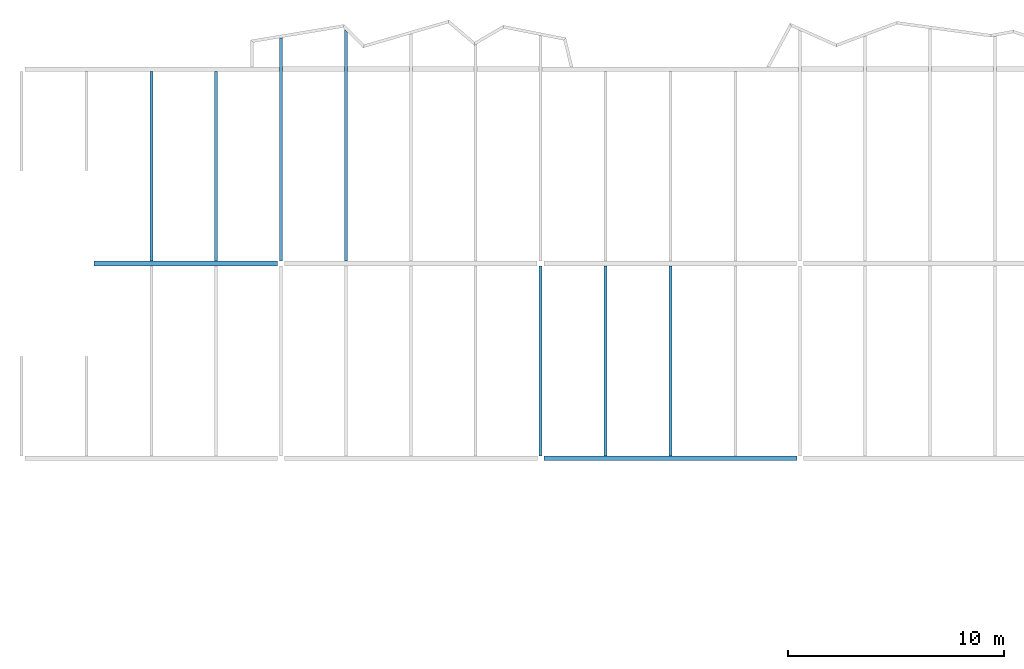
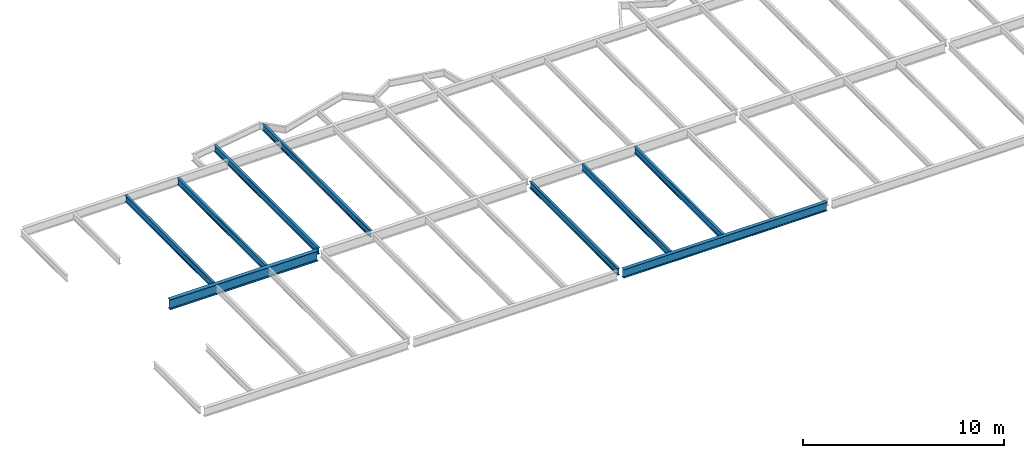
# One storey, part 2 of 21: 9 beams.
"""IFC2X3 building model written with IfcOpenShell, lengths in millimetres."""

from ifc_helpers import new_model, si_unit, origin, place, context, project, spatial, faceted_brep, material, element, save


model = new_model("IFC2X3")

# Units and contexts
context_of_model = context(None, 3, precision=1e-05, world=origin())
ifc_project = project(units=[si_unit("LENGTHUNIT", "METRE", prefix="MILLI")], contexts=[context_of_model])

# Building, storey
building = spatial("IfcBuilding", under=ifc_project, Name="Building", CompositionType="ELEMENT")
storey = spatial("IfcBuildingStorey", under=building, Name="FL3-FRM", CompositionType="ELEMENT")

# Beams
ifc_material_1 = material(Name="A992")
beam_1_placement = place(None, origin())
element("IfcBeam", 1, at=beam_1_placement, inside=storey, material=ifc_material_1, Name="B417", context=context_of_model, shape_type="Brep", body=[
    faceted_brep([(-51070.0, 35895.5, 8474.0), (-50930.0, 35895.5, 8474.0), (-50930.0, 27114.5, 8474.0), (-51070.0, 27114.5, 8474.0), (-50930.0, 35895.5, 8482.8), (-50930.0, 27114.5, 8482.8), (-50986.6, 35895.5, 8482.8), (-50986.6, 27114.5, 8482.8), (-50989.2, 35895.5, 8483.15), (-50989.2, 27114.5, 8483.15), (-50991.7, 35895.5, 8484.17), (-50991.7, 27114.5, 8484.17), (-50993.8, 35895.5, 8485.79), (-50993.8, 27114.5, 8485.79), (-50995.4, 35895.5, 8487.9), (-50995.4, 27114.5, 8487.9), (-50996.5, 35895.5, 8490.36), (-50996.5, 27114.5, 8490.36), (-50996.8, 35895.5, 8493.0), (-50996.8, 27114.5, 8493.0), (-50996.8, 35895.5, 8854.0), (-50996.8, 27114.5, 8854.0), (-50996.5, 35895.5, 8856.64), (-50996.5, 27114.5, 8856.64), (-50995.4, 35895.5, 8859.1), (-50995.4, 27114.5, 8859.1), (-50993.8, 35895.5, 8861.21), (-50993.8, 27114.5, 8861.21), (-50991.7, 35895.5, 8862.83), (-50991.7, 27114.5, 8862.83), (-50989.2, 35895.5, 8863.85), (-50989.2, 27114.5, 8863.85), (-50986.6, 35895.5, 8864.2), (-50986.6, 27114.5, 8864.2), (-50930.0, 35895.5, 8864.2), (-50930.0, 27114.5, 8864.2), (-50930.0, 35895.5, 8873.0), (-50930.0, 27114.5, 8873.0), (-51070.0, 35895.5, 8873.0), (-51070.0, 27114.5, 8873.0), (-51070.0, 35895.5, 8864.2), (-51070.0, 27114.5, 8864.2), (-51013.4, 35895.5, 8864.2), (-51013.4, 27114.5, 8864.2), (-51010.8, 35895.5, 8863.85), (-51010.8, 27114.5, 8863.85), (-51008.3, 35895.5, 8862.83), (-51008.3, 27114.5, 8862.83), (-51006.2, 35895.5, 8861.21), (-51006.2, 27114.5, 8861.21), (-51004.6, 35895.5, 8859.1), (-51004.6, 27114.5, 8859.1), (-51003.5, 35895.5, 8856.64), (-51003.5, 27114.5, 8856.64), (-51003.2, 35895.5, 8854.0), (-51003.2, 27114.5, 8854.0), (-51003.2, 35895.5, 8493.0), (-51003.2, 27114.5, 8493.0), (-51003.5, 35895.5, 8490.36), (-51003.5, 27114.5, 8490.36), (-51004.6, 35895.5, 8487.9), (-51004.6, 27114.5, 8487.9), (-51006.2, 35895.5, 8485.79), (-51006.2, 27114.5, 8485.79), (-51008.3, 35895.5, 8484.17), (-51008.3, 27114.5, 8484.17), (-51010.8, 35895.5, 8483.15), (-51010.8, 27114.5, 8483.15), (-51013.4, 35895.5, 8482.8), (-51013.4, 27114.5, 8482.8), (-51070.0, 35895.5, 8482.8), (-51070.0, 27114.5, 8482.8)], [[[0, 1, 2, 3]], [[1, 4, 5, 2]], [[4, 6, 7, 5]], [[6, 8, 9, 7]], [[8, 10, 11, 9]], [[10, 12, 13, 11]], [[12, 14, 15, 13]], [[14, 16, 17, 15]], [[16, 18, 19, 17]], [[18, 20, 21, 19]], [[20, 22, 23, 21]], [[22, 24, 25, 23]], [[24, 26, 27, 25]], [[26, 28, 29, 27]], [[28, 30, 31, 29]], [[30, 32, 33, 31]], [[32, 34, 35, 33]], [[34, 36, 37, 35]], [[36, 38, 39, 37]], [[38, 40, 41, 39]], [[40, 42, 43, 41]], [[42, 44, 45, 43]], [[44, 46, 47, 45]], [[46, 48, 49, 47]], [[48, 50, 51, 49]], [[50, 52, 53, 51]], [[52, 54, 55, 53]], [[54, 56, 57, 55]], [[56, 58, 59, 57]], [[58, 60, 61, 59]], [[60, 62, 63, 61]], [[62, 64, 65, 63]], [[64, 66, 67, 65]], [[66, 68, 69, 67]], [[68, 70, 71, 69]], [[70, 0, 3, 71]], [[0, 70, 68, 66, 64, 62, 60, 58, 56, 54, 52, 50, 48, 46, 44, 42, 40, 38, 36, 34, 32, 30, 28, 26, 24, 22, 20, 18, 16, 14, 12, 10, 8, 6, 4, 1]], [[3, 2, 5, 7, 9, 11, 13, 15, 17, 19, 21, 23, 25, 27, 29, 31, 33, 35, 37, 39, 41, 43, 45, 47, 49, 51, 53, 55, 57, 59, 61, 63, 65, 67, 69, 71]]]),
])
ifc_material_2 = material(Name="A992")
beam_2_placement = place(None, origin())
element("IfcBeam", 2, at=beam_2_placement, inside=storey, material=ifc_material_2, Name="B418", context=context_of_model, shape_type="Brep", body=[
    faceted_brep([(-54070.0, 35895.5, 8474.0), (-53930.0, 35895.5, 8474.0), (-53930.0, 27114.5, 8474.0), (-54070.0, 27114.5, 8474.0), (-53930.0, 35895.5, 8482.8), (-53930.0, 27114.5, 8482.8), (-53986.6, 35895.5, 8482.8), (-53986.6, 27114.5, 8482.8), (-53989.2, 35895.5, 8483.15), (-53989.2, 27114.5, 8483.15), (-53991.7, 35895.5, 8484.17), (-53991.7, 27114.5, 8484.17), (-53993.8, 35895.5, 8485.79), (-53993.8, 27114.5, 8485.79), (-53995.4, 35895.5, 8487.9), (-53995.4, 27114.5, 8487.9), (-53996.5, 35895.5, 8490.36), (-53996.5, 27114.5, 8490.36), (-53996.8, 35895.5, 8493.0), (-53996.8, 27114.5, 8493.0), (-53996.8, 35895.5, 8854.0), (-53996.8, 27114.5, 8854.0), (-53996.5, 35895.5, 8856.64), (-53996.5, 27114.5, 8856.64), (-53995.4, 35895.5, 8859.1), (-53995.4, 27114.5, 8859.1), (-53993.8, 35895.5, 8861.21), (-53993.8, 27114.5, 8861.21), (-53991.7, 35895.5, 8862.83), (-53991.7, 27114.5, 8862.83), (-53989.2, 35895.5, 8863.85), (-53989.2, 27114.5, 8863.85), (-53986.6, 35895.5, 8864.2), (-53986.6, 27114.5, 8864.2), (-53930.0, 35895.5, 8864.2), (-53930.0, 27114.5, 8864.2), (-53930.0, 35895.5, 8873.0), (-53930.0, 27114.5, 8873.0), (-54070.0, 35895.5, 8873.0), (-54070.0, 27114.5, 8873.0), (-54070.0, 35895.5, 8864.2), (-54070.0, 27114.5, 8864.2), (-54013.4, 35895.5, 8864.2), (-54013.4, 27114.5, 8864.2), (-54010.8, 35895.5, 8863.85), (-54010.8, 27114.5, 8863.85), (-54008.3, 35895.5, 8862.83), (-54008.3, 27114.5, 8862.83), (-54006.2, 35895.5, 8861.21), (-54006.2, 27114.5, 8861.21), (-54004.6, 35895.5, 8859.1), (-54004.6, 27114.5, 8859.1), (-54003.5, 35895.5, 8856.64), (-54003.5, 27114.5, 8856.64), (-54003.2, 35895.5, 8854.0), (-54003.2, 27114.5, 8854.0), (-54003.2, 35895.5, 8493.0), (-54003.2, 27114.5, 8493.0), (-54003.5, 35895.5, 8490.36), (-54003.5, 27114.5, 8490.36), (-54004.6, 35895.5, 8487.9), (-54004.6, 27114.5, 8487.9), (-54006.2, 35895.5, 8485.79), (-54006.2, 27114.5, 8485.79), (-54008.3, 35895.5, 8484.17), (-54008.3, 27114.5, 8484.17), (-54010.8, 35895.5, 8483.15), (-54010.8, 27114.5, 8483.15), (-54013.4, 35895.5, 8482.8), (-54013.4, 27114.5, 8482.8), (-54070.0, 35895.5, 8482.8), (-54070.0, 27114.5, 8482.8)], [[[0, 1, 2, 3]], [[1, 4, 5, 2]], [[4, 6, 7, 5]], [[6, 8, 9, 7]], [[8, 10, 11, 9]], [[10, 12, 13, 11]], [[12, 14, 15, 13]], [[14, 16, 17, 15]], [[16, 18, 19, 17]], [[18, 20, 21, 19]], [[20, 22, 23, 21]], [[22, 24, 25, 23]], [[24, 26, 27, 25]], [[26, 28, 29, 27]], [[28, 30, 31, 29]], [[30, 32, 33, 31]], [[32, 34, 35, 33]], [[34, 36, 37, 35]], [[36, 38, 39, 37]], [[38, 40, 41, 39]], [[40, 42, 43, 41]], [[42, 44, 45, 43]], [[44, 46, 47, 45]], [[46, 48, 49, 47]], [[48, 50, 51, 49]], [[50, 52, 53, 51]], [[52, 54, 55, 53]], [[54, 56, 57, 55]], [[56, 58, 59, 57]], [[58, 60, 61, 59]], [[60, 62, 63, 61]], [[62, 64, 65, 63]], [[64, 66, 67, 65]], [[66, 68, 69, 67]], [[68, 70, 71, 69]], [[70, 0, 3, 71]], [[0, 70, 68, 66, 64, 62, 60, 58, 56, 54, 52, 50, 48, 46, 44, 42, 40, 38, 36, 34, 32, 30, 28, 26, 24, 22, 20, 18, 16, 14, 12, 10, 8, 6, 4, 1]], [[3, 2, 5, 7, 9, 11, 13, 15, 17, 19, 21, 23, 25, 27, 29, 31, 33, 35, 37, 39, 41, 43, 45, 47, 49, 51, 53, 55, 57, 59, 61, 63, 65, 67, 69, 71]]]),
])
ifc_material_3 = material(Name="A992")
beam_3_placement = place(None, origin())
element("IfcBeam", 3, at=beam_3_placement, inside=storey, material=ifc_material_3, Name="Column466", context=context_of_model, shape_type="Brep", body=[
    faceted_brep([(-35846.0, 17895.5, 8345.0), (-35846.0, 18104.5, 8345.0), (-24154.0, 18104.5, 8345.0), (-24154.0, 17895.5, 8345.0), (-35846.0, 18104.5, 8358.3), (-24154.0, 18104.5, 8358.3), (-35846.0, 18017.4, 8358.3), (-24154.0, 18017.4, 8358.3), (-35846.0, 18014.2, 8358.73), (-24154.0, 18014.2, 8358.73), (-35846.0, 18011.1, 8360.0), (-24154.0, 18011.1, 8360.0), (-35846.0, 18008.5, 8362.02), (-24154.0, 18008.5, 8362.02), (-35846.0, 18006.5, 8364.65), (-24154.0, 18006.5, 8364.65), (-35846.0, 18005.2, 8367.71), (-24154.0, 18005.2, 8367.71), (-35846.0, 18004.8, 8371.0), (-24154.0, 18004.8, 8371.0), (-35846.0, 18004.8, 8847.0), (-24154.0, 18004.8, 8847.0), (-35846.0, 18005.2, 8850.29), (-24154.0, 18005.2, 8850.29), (-35846.0, 18006.5, 8853.35), (-24154.0, 18006.5, 8853.35), (-35846.0, 18008.5, 8855.98), (-24154.0, 18008.5, 8855.98), (-35846.0, 18011.1, 8858.0), (-24154.0, 18011.1, 8858.0), (-35846.0, 18014.2, 8859.27), (-24154.0, 18014.2, 8859.27), (-35846.0, 18017.4, 8859.7), (-24154.0, 18017.4, 8859.7), (-35846.0, 18104.5, 8859.7), (-24154.0, 18104.5, 8859.7), (-35846.0, 18104.5, 8873.0), (-24154.0, 18104.5, 8873.0), (-35846.0, 17895.5, 8873.0), (-24154.0, 17895.5, 8873.0), (-35846.0, 17895.5, 8859.7), (-24154.0, 17895.5, 8859.7), (-35846.0, 17982.6, 8859.7), (-24154.0, 17982.6, 8859.7), (-35846.0, 17985.8, 8859.27), (-24154.0, 17985.8, 8859.27), (-35846.0, 17988.9, 8858.0), (-24154.0, 17988.9, 8858.0), (-35846.0, 17991.5, 8855.98), (-24154.0, 17991.5, 8855.98), (-35846.0, 17993.5, 8853.35), (-24154.0, 17993.5, 8853.35), (-35846.0, 17994.8, 8850.29), (-24154.0, 17994.8, 8850.29), (-35846.0, 17995.3, 8847.0), (-24154.0, 17995.3, 8847.0), (-35846.0, 17995.3, 8371.0), (-24154.0, 17995.3, 8371.0), (-35846.0, 17994.8, 8367.71), (-24154.0, 17994.8, 8367.71), (-35846.0, 17993.5, 8364.65), (-24154.0, 17993.5, 8364.65), (-35846.0, 17991.5, 8362.02), (-24154.0, 17991.5, 8362.02), (-35846.0, 17988.9, 8360.0), (-24154.0, 17988.9, 8360.0), (-35846.0, 17985.8, 8358.73), (-24154.0, 17985.8, 8358.73), (-35846.0, 17982.6, 8358.3), (-24154.0, 17982.6, 8358.3), (-35846.0, 17895.5, 8358.3), (-24154.0, 17895.5, 8358.3)], [[[0, 1, 2, 3]], [[1, 4, 5, 2]], [[4, 6, 7, 5]], [[6, 8, 9, 7]], [[8, 10, 11, 9]], [[10, 12, 13, 11]], [[12, 14, 15, 13]], [[14, 16, 17, 15]], [[16, 18, 19, 17]], [[18, 20, 21, 19]], [[20, 22, 23, 21]], [[22, 24, 25, 23]], [[24, 26, 27, 25]], [[26, 28, 29, 27]], [[28, 30, 31, 29]], [[30, 32, 33, 31]], [[32, 34, 35, 33]], [[34, 36, 37, 35]], [[36, 38, 39, 37]], [[38, 40, 41, 39]], [[40, 42, 43, 41]], [[42, 44, 45, 43]], [[44, 46, 47, 45]], [[46, 48, 49, 47]], [[48, 50, 51, 49]], [[50, 52, 53, 51]], [[52, 54, 55, 53]], [[54, 56, 57, 55]], [[56, 58, 59, 57]], [[58, 60, 61, 59]], [[60, 62, 63, 61]], [[62, 64, 65, 63]], [[64, 66, 67, 65]], [[66, 68, 69, 67]], [[68, 70, 71, 69]], [[70, 0, 3, 71]], [[0, 70, 68, 66, 64, 62, 60, 58, 56, 54, 52, 50, 48, 46, 44, 42, 40, 38, 36, 34, 32, 30, 28, 26, 24, 22, 20, 18, 16, 14, 12, 10, 8, 6, 4, 1]], [[3, 2, 5, 7, 9, 11, 13, 15, 17, 19, 21, 23, 25, 27, 29, 31, 33, 35, 37, 39, 41, 43, 45, 47, 49, 51, 53, 55, 57, 59, 61, 63, 65, 67, 69, 71]]]),
])
ifc_material_4 = material(Name="A992")
beam_4_placement = place(None, origin())
element("IfcBeam", 4, at=beam_4_placement, inside=storey, material=ifc_material_4, Name="B441", context=context_of_model, shape_type="Brep", body=[
    faceted_brep([(-35930.0, 18104.5, 8474.0), (-36070.0, 18104.5, 8474.0), (-36070.0, 26885.5, 8474.0), (-35930.0, 26885.5, 8474.0), (-36070.0, 18104.5, 8482.8), (-36070.0, 26885.5, 8482.8), (-36013.4, 18104.5, 8482.8), (-36013.4, 26885.5, 8482.8), (-36010.8, 18104.5, 8483.15), (-36010.8, 26885.5, 8483.15), (-36008.3, 18104.5, 8484.17), (-36008.3, 26885.5, 8484.17), (-36006.2, 18104.5, 8485.79), (-36006.2, 26885.5, 8485.79), (-36004.6, 18104.5, 8487.9), (-36004.6, 26885.5, 8487.9), (-36003.5, 18104.5, 8490.36), (-36003.5, 26885.5, 8490.36), (-36003.2, 18104.5, 8493.0), (-36003.2, 26885.5, 8493.0), (-36003.2, 18104.5, 8854.0), (-36003.2, 26885.5, 8854.0), (-36003.5, 18104.5, 8856.64), (-36003.5, 26885.5, 8856.64), (-36004.6, 18104.5, 8859.1), (-36004.6, 26885.5, 8859.1), (-36006.2, 18104.5, 8861.21), (-36006.2, 26885.5, 8861.21), (-36008.3, 18104.5, 8862.83), (-36008.3, 26885.5, 8862.83), (-36010.8, 18104.5, 8863.85), (-36010.8, 26885.5, 8863.85), (-36013.4, 18104.5, 8864.2), (-36013.4, 26885.5, 8864.2), (-36070.0, 18104.5, 8864.2), (-36070.0, 26885.5, 8864.2), (-36070.0, 18104.5, 8873.0), (-36070.0, 26885.5, 8873.0), (-35930.0, 18104.5, 8873.0), (-35930.0, 26885.5, 8873.0), (-35930.0, 18104.5, 8864.2), (-35930.0, 26885.5, 8864.2), (-35986.6, 18104.5, 8864.2), (-35986.6, 26885.5, 8864.2), (-35989.2, 18104.5, 8863.85), (-35989.2, 26885.5, 8863.85), (-35991.7, 18104.5, 8862.83), (-35991.7, 26885.5, 8862.83), (-35993.8, 18104.5, 8861.21), (-35993.8, 26885.5, 8861.21), (-35995.4, 18104.5, 8859.1), (-35995.4, 26885.5, 8859.1), (-35996.5, 18104.5, 8856.64), (-35996.5, 26885.5, 8856.64), (-35996.8, 18104.5, 8854.0), (-35996.8, 26885.5, 8854.0), (-35996.8, 18104.5, 8493.0), (-35996.8, 26885.5, 8493.0), (-35996.5, 18104.5, 8490.36), (-35996.5, 26885.5, 8490.36), (-35995.4, 18104.5, 8487.9), (-35995.4, 26885.5, 8487.9), (-35993.8, 18104.5, 8485.79), (-35993.8, 26885.5, 8485.79), (-35991.7, 18104.5, 8484.17), (-35991.7, 26885.5, 8484.17), (-35989.2, 18104.5, 8483.15), (-35989.2, 26885.5, 8483.15), (-35986.6, 18104.5, 8482.8), (-35986.6, 26885.5, 8482.8), (-35930.0, 18104.5, 8482.8), (-35930.0, 26885.5, 8482.8)], [[[0, 1, 2, 3]], [[1, 4, 5, 2]], [[4, 6, 7, 5]], [[6, 8, 9, 7]], [[8, 10, 11, 9]], [[10, 12, 13, 11]], [[12, 14, 15, 13]], [[14, 16, 17, 15]], [[16, 18, 19, 17]], [[18, 20, 21, 19]], [[20, 22, 23, 21]], [[22, 24, 25, 23]], [[24, 26, 27, 25]], [[26, 28, 29, 27]], [[28, 30, 31, 29]], [[30, 32, 33, 31]], [[32, 34, 35, 33]], [[34, 36, 37, 35]], [[36, 38, 39, 37]], [[38, 40, 41, 39]], [[40, 42, 43, 41]], [[42, 44, 45, 43]], [[44, 46, 47, 45]], [[46, 48, 49, 47]], [[48, 50, 51, 49]], [[50, 52, 53, 51]], [[52, 54, 55, 53]], [[54, 56, 57, 55]], [[56, 58, 59, 57]], [[58, 60, 61, 59]], [[60, 62, 63, 61]], [[62, 64, 65, 63]], [[64, 66, 67, 65]], [[66, 68, 69, 67]], [[68, 70, 71, 69]], [[70, 0, 3, 71]], [[0, 70, 68, 66, 64, 62, 60, 58, 56, 54, 52, 50, 48, 46, 44, 42, 40, 38, 36, 34, 32, 30, 28, 26, 24, 22, 20, 18, 16, 14, 12, 10, 8, 6, 4, 1]], [[3, 2, 5, 7, 9, 11, 13, 15, 17, 19, 21, 23, 25, 27, 29, 31, 33, 35, 37, 39, 41, 43, 45, 47, 49, 51, 53, 55, 57, 59, 61, 63, 65, 67, 69, 71]]]),
])
ifc_material_5 = material(Name="A992")
beam_5_placement = place(None, origin())
element("IfcBeam", 5, at=beam_5_placement, inside=storey, material=ifc_material_5, Name="B442", context=context_of_model, shape_type="Brep", body=[
    faceted_brep([(-32930.0, 18104.5, 8474.0), (-33070.0, 18104.5, 8474.0), (-33070.0, 26885.5, 8474.0), (-32930.0, 26885.5, 8474.0), (-33070.0, 18104.5, 8482.8), (-33070.0, 26885.5, 8482.8), (-33013.4, 18104.5, 8482.8), (-33013.4, 26885.5, 8482.8), (-33010.8, 18104.5, 8483.15), (-33010.8, 26885.5, 8483.15), (-33008.3, 18104.5, 8484.17), (-33008.3, 26885.5, 8484.17), (-33006.2, 18104.5, 8485.79), (-33006.2, 26885.5, 8485.79), (-33004.6, 18104.5, 8487.9), (-33004.6, 26885.5, 8487.9), (-33003.5, 18104.5, 8490.36), (-33003.5, 26885.5, 8490.36), (-33003.2, 18104.5, 8493.0), (-33003.2, 26885.5, 8493.0), (-33003.2, 18104.5, 8854.0), (-33003.2, 26885.5, 8854.0), (-33003.5, 18104.5, 8856.64), (-33003.5, 26885.5, 8856.64), (-33004.6, 18104.5, 8859.1), (-33004.6, 26885.5, 8859.1), (-33006.2, 18104.5, 8861.21), (-33006.2, 26885.5, 8861.21), (-33008.3, 18104.5, 8862.83), (-33008.3, 26885.5, 8862.83), (-33010.8, 18104.5, 8863.85), (-33010.8, 26885.5, 8863.85), (-33013.4, 18104.5, 8864.2), (-33013.4, 26885.5, 8864.2), (-33070.0, 18104.5, 8864.2), (-33070.0, 26885.5, 8864.2), (-33070.0, 18104.5, 8873.0), (-33070.0, 26885.5, 8873.0), (-32930.0, 18104.5, 8873.0), (-32930.0, 26885.5, 8873.0), (-32930.0, 18104.5, 8864.2), (-32930.0, 26885.5, 8864.2), (-32986.6, 18104.5, 8864.2), (-32986.6, 26885.5, 8864.2), (-32989.2, 18104.5, 8863.85), (-32989.2, 26885.5, 8863.85), (-32991.7, 18104.5, 8862.83), (-32991.7, 26885.5, 8862.83), (-32993.8, 18104.5, 8861.21), (-32993.8, 26885.5, 8861.21), (-32995.4, 18104.5, 8859.1), (-32995.4, 26885.5, 8859.1), (-32996.5, 18104.5, 8856.64), (-32996.5, 26885.5, 8856.64), (-32996.8, 18104.5, 8854.0), (-32996.8, 26885.5, 8854.0), (-32996.8, 18104.5, 8493.0), (-32996.8, 26885.5, 8493.0), (-32996.5, 18104.5, 8490.36), (-32996.5, 26885.5, 8490.36), (-32995.4, 18104.5, 8487.9), (-32995.4, 26885.5, 8487.9), (-32993.8, 18104.5, 8485.79), (-32993.8, 26885.5, 8485.79), (-32991.7, 18104.5, 8484.17), (-32991.7, 26885.5, 8484.17), (-32989.2, 18104.5, 8483.15), (-32989.2, 26885.5, 8483.15), (-32986.6, 18104.5, 8482.8), (-32986.6, 26885.5, 8482.8), (-32930.0, 18104.5, 8482.8), (-32930.0, 26885.5, 8482.8)], [[[0, 1, 2, 3]], [[1, 4, 5, 2]], [[4, 6, 7, 5]], [[6, 8, 9, 7]], [[8, 10, 11, 9]], [[10, 12, 13, 11]], [[12, 14, 15, 13]], [[14, 16, 17, 15]], [[16, 18, 19, 17]], [[18, 20, 21, 19]], [[20, 22, 23, 21]], [[22, 24, 25, 23]], [[24, 26, 27, 25]], [[26, 28, 29, 27]], [[28, 30, 31, 29]], [[30, 32, 33, 31]], [[32, 34, 35, 33]], [[34, 36, 37, 35]], [[36, 38, 39, 37]], [[38, 40, 41, 39]], [[40, 42, 43, 41]], [[42, 44, 45, 43]], [[44, 46, 47, 45]], [[46, 48, 49, 47]], [[48, 50, 51, 49]], [[50, 52, 53, 51]], [[52, 54, 55, 53]], [[54, 56, 57, 55]], [[56, 58, 59, 57]], [[58, 60, 61, 59]], [[60, 62, 63, 61]], [[62, 64, 65, 63]], [[64, 66, 67, 65]], [[66, 68, 69, 67]], [[68, 70, 71, 69]], [[70, 0, 3, 71]], [[0, 70, 68, 66, 64, 62, 60, 58, 56, 54, 52, 50, 48, 46, 44, 42, 40, 38, 36, 34, 32, 30, 28, 26, 24, 22, 20, 18, 16, 14, 12, 10, 8, 6, 4, 1]], [[3, 2, 5, 7, 9, 11, 13, 15, 17, 19, 21, 23, 25, 27, 29, 31, 33, 35, 37, 39, 41, 43, 45, 47, 49, 51, 53, 55, 57, 59, 61, 63, 65, 67, 69, 71]]]),
])
ifc_material_6 = material(Name="A992")
beam_6_placement = place(None, origin())
element("IfcBeam", 6, at=beam_6_placement, inside=storey, material=ifc_material_6, Name="B443", context=context_of_model, shape_type="Brep", body=[
    faceted_brep([(-29930.0, 18104.5, 8474.0), (-30070.0, 18104.5, 8474.0), (-30070.0, 26885.5, 8474.0), (-29930.0, 26885.5, 8474.0), (-30070.0, 18104.5, 8482.8), (-30070.0, 26885.5, 8482.8), (-30013.4, 18104.5, 8482.8), (-30013.4, 26885.5, 8482.8), (-30010.8, 18104.5, 8483.15), (-30010.8, 26885.5, 8483.15), (-30008.3, 18104.5, 8484.17), (-30008.3, 26885.5, 8484.17), (-30006.2, 18104.5, 8485.79), (-30006.2, 26885.5, 8485.79), (-30004.6, 18104.5, 8487.9), (-30004.6, 26885.5, 8487.9), (-30003.5, 18104.5, 8490.36), (-30003.5, 26885.5, 8490.36), (-30003.2, 18104.5, 8493.0), (-30003.2, 26885.5, 8493.0), (-30003.2, 18104.5, 8854.0), (-30003.2, 26885.5, 8854.0), (-30003.5, 18104.5, 8856.64), (-30003.5, 26885.5, 8856.64), (-30004.6, 18104.5, 8859.1), (-30004.6, 26885.5, 8859.1), (-30006.2, 18104.5, 8861.21), (-30006.2, 26885.5, 8861.21), (-30008.3, 18104.5, 8862.83), (-30008.3, 26885.5, 8862.83), (-30010.8, 18104.5, 8863.85), (-30010.8, 26885.5, 8863.85), (-30013.4, 18104.5, 8864.2), (-30013.4, 26885.5, 8864.2), (-30070.0, 18104.5, 8864.2), (-30070.0, 26885.5, 8864.2), (-30070.0, 18104.5, 8873.0), (-30070.0, 26885.5, 8873.0), (-29930.0, 18104.5, 8873.0), (-29930.0, 26885.5, 8873.0), (-29930.0, 18104.5, 8864.2), (-29930.0, 26885.5, 8864.2), (-29986.6, 18104.5, 8864.2), (-29986.6, 26885.5, 8864.2), (-29989.2, 18104.5, 8863.85), (-29989.2, 26885.5, 8863.85), (-29991.7, 18104.5, 8862.83), (-29991.7, 26885.5, 8862.83), (-29993.8, 18104.5, 8861.21), (-29993.8, 26885.5, 8861.21), (-29995.4, 18104.5, 8859.1), (-29995.4, 26885.5, 8859.1), (-29996.5, 18104.5, 8856.64), (-29996.5, 26885.5, 8856.64), (-29996.8, 18104.5, 8854.0), (-29996.8, 26885.5, 8854.0), (-29996.8, 18104.5, 8493.0), (-29996.8, 26885.5, 8493.0), (-29996.5, 18104.5, 8490.36), (-29996.5, 26885.5, 8490.36), (-29995.4, 18104.5, 8487.9), (-29995.4, 26885.5, 8487.9), (-29993.8, 18104.5, 8485.79), (-29993.8, 26885.5, 8485.79), (-29991.7, 18104.5, 8484.17), (-29991.7, 26885.5, 8484.17), (-29989.2, 18104.5, 8483.15), (-29989.2, 26885.5, 8483.15), (-29986.6, 18104.5, 8482.8), (-29986.6, 26885.5, 8482.8), (-29930.0, 18104.5, 8482.8), (-29930.0, 26885.5, 8482.8)], [[[0, 1, 2, 3]], [[1, 4, 5, 2]], [[4, 6, 7, 5]], [[6, 8, 9, 7]], [[8, 10, 11, 9]], [[10, 12, 13, 11]], [[12, 14, 15, 13]], [[14, 16, 17, 15]], [[16, 18, 19, 17]], [[18, 20, 21, 19]], [[20, 22, 23, 21]], [[22, 24, 25, 23]], [[24, 26, 27, 25]], [[26, 28, 29, 27]], [[28, 30, 31, 29]], [[30, 32, 33, 31]], [[32, 34, 35, 33]], [[34, 36, 37, 35]], [[36, 38, 39, 37]], [[38, 40, 41, 39]], [[40, 42, 43, 41]], [[42, 44, 45, 43]], [[44, 46, 47, 45]], [[46, 48, 49, 47]], [[48, 50, 51, 49]], [[50, 52, 53, 51]], [[52, 54, 55, 53]], [[54, 56, 57, 55]], [[56, 58, 59, 57]], [[58, 60, 61, 59]], [[60, 62, 63, 61]], [[62, 64, 65, 63]], [[64, 66, 67, 65]], [[66, 68, 69, 67]], [[68, 70, 71, 69]], [[70, 0, 3, 71]], [[0, 70, 68, 66, 64, 62, 60, 58, 56, 54, 52, 50, 48, 46, 44, 42, 40, 38, 36, 34, 32, 30, 28, 26, 24, 22, 20, 18, 16, 14, 12, 10, 8, 6, 4, 1]], [[3, 2, 5, 7, 9, 11, 13, 15, 17, 19, 21, 23, 25, 27, 29, 31, 33, 35, 37, 39, 41, 43, 45, 47, 49, 51, 53, 55, 57, 59, 61, 63, 65, 67, 69, 71]]]),
])
ifc_material_7 = material(Name="A992")
beam_7_placement = place(None, origin())
element("IfcBeam", 7, at=beam_7_placement, inside=storey, material=ifc_material_7, Name="B1087", context=context_of_model, shape_type="Brep", body=[
    faceted_brep([(-45070.0, 37851.8, 8474.0), (-44930.0, 37711.8, 8474.0), (-44930.0, 27114.5, 8474.0), (-45070.0, 27114.5, 8474.0), (-44930.0, 37711.8, 8482.8), (-44930.0, 27114.5, 8482.8), (-44986.6, 37768.4, 8482.8), (-44986.6, 27114.5, 8482.8), (-44988.0, 37769.8, 8482.88), (-44988.1, 27114.5, 8482.9), (-44989.5, 37771.2, 8483.19), (-44989.5, 27114.5, 8483.21), (-44990.8, 37772.6, 8483.72), (-44990.8, 27114.5, 8483.72), (-44992.1, 37773.8, 8484.39), (-44992.1, 27114.5, 8484.42), (-44993.3, 37775.0, 8485.26), (-44993.3, 27114.5, 8485.29), (-44994.3, 37776.0, 8486.3), (-44994.3, 27114.5, 8486.32), (-44995.2, 37776.9, 8487.43), (-44995.2, 27114.5, 8487.49), (-44995.9, 37777.6, 8488.74), (-44995.9, 27114.5, 8488.76), (-44996.4, 37778.1, 8490.11), (-44996.4, 27114.5, 8490.13), (-44996.7, 37778.4, 8491.53), (-44996.7, 27114.5, 8491.55), (-44996.8, 37778.6, 8493.0), (-44996.8, 27114.5, 8493.0), (-44996.8, 37778.6, 8854.0), (-44996.8, 27114.5, 8854.0), (-44996.7, 37778.4, 8855.47), (-44996.7, 27114.5, 8855.45), (-44996.4, 37778.1, 8856.89), (-44996.4, 27114.5, 8856.87), (-44995.9, 37777.6, 8858.26), (-44995.9, 27114.5, 8858.24), (-44995.2, 37776.9, 8859.57), (-44995.2, 27114.5, 8859.51), (-44994.3, 37776.0, 8860.7), (-44994.3, 27114.5, 8860.68), (-44993.3, 37775.0, 8861.74), (-44993.3, 27114.5, 8861.71), (-44992.1, 37773.8, 8862.61), (-44992.1, 27114.5, 8862.58), (-44990.8, 37772.6, 8863.28), (-44990.8, 27114.5, 8863.28), (-44989.5, 37771.2, 8863.81), (-44989.5, 27114.5, 8863.79), (-44988.0, 37769.8, 8864.12), (-44988.1, 27114.5, 8864.1), (-44986.6, 37768.4, 8864.2), (-44986.6, 27114.5, 8864.2), (-44930.0, 37711.8, 8864.2), (-44930.0, 27114.5, 8864.2), (-44930.0, 37711.8, 8873.0), (-44930.0, 27114.5, 8873.0), (-45070.0, 37851.8, 8873.0), (-45070.0, 27114.5, 8873.0), (-45070.0, 37851.8, 8864.2), (-45070.0, 27114.5, 8864.2), (-45013.4, 37795.2, 8864.2), (-45013.4, 27114.5, 8864.2), (-45012.0, 37793.7, 8864.12), (-45011.9, 27114.5, 8864.1), (-45010.5, 37792.3, 8863.81), (-45010.5, 27114.5, 8863.79), (-45009.2, 37790.9, 8863.28), (-45009.2, 27114.5, 8863.28), (-45007.9, 37789.7, 8862.61), (-45007.9, 27114.5, 8862.58), (-45006.7, 37788.5, 8861.74), (-45006.7, 27114.5, 8861.71), (-45005.7, 37787.5, 8860.7), (-45005.7, 27114.5, 8860.68), (-45004.8, 37786.6, 8859.57), (-45004.8, 27114.5, 8859.51), (-45004.1, 37785.9, 8858.26), (-45004.1, 27114.5, 8858.24), (-45003.6, 37785.4, 8856.89), (-45003.6, 27114.5, 8856.87), (-45003.3, 37785.1, 8855.47), (-45003.3, 27114.5, 8855.45), (-45003.2, 37785.0, 8854.0), (-45003.2, 27114.5, 8854.0), (-45003.2, 37785.0, 8493.0), (-45003.2, 27114.5, 8493.0), (-45003.3, 37785.1, 8491.53), (-45003.3, 27114.5, 8491.55), (-45003.6, 37785.4, 8490.11), (-45003.6, 27114.5, 8490.13), (-45004.1, 37785.9, 8488.74), (-45004.1, 27114.5, 8488.76), (-45004.8, 37786.6, 8487.43), (-45004.8, 27114.5, 8487.49), (-45005.7, 37787.5, 8486.3), (-45005.7, 27114.5, 8486.32), (-45006.7, 37788.5, 8485.26), (-45006.7, 27114.5, 8485.29), (-45007.9, 37789.7, 8484.39), (-45007.9, 27114.5, 8484.42), (-45009.2, 37790.9, 8483.72), (-45009.2, 27114.5, 8483.72), (-45010.5, 37792.3, 8483.19), (-45010.5, 27114.5, 8483.21), (-45012.0, 37793.7, 8482.88), (-45011.9, 27114.5, 8482.9), (-45013.4, 37795.2, 8482.8), (-45013.4, 27114.5, 8482.8), (-45070.0, 37851.8, 8482.8), (-45070.0, 27114.5, 8482.8)], [[[0, 1, 2, 3]], [[1, 4, 5, 2]], [[4, 6, 7, 5]], [[6, 8, 9, 7]], [[8, 10, 11, 9]], [[10, 12, 13, 11]], [[12, 14, 15, 13]], [[14, 16, 17, 15]], [[16, 18, 19, 17]], [[18, 20, 21, 19]], [[20, 22, 23, 21]], [[22, 24, 25, 23]], [[24, 26, 27, 25]], [[26, 28, 29, 27]], [[28, 30, 31, 29]], [[30, 32, 33, 31]], [[32, 34, 35, 33]], [[34, 36, 37, 35]], [[36, 38, 39, 37]], [[38, 40, 41, 39]], [[40, 42, 43, 41]], [[42, 44, 45, 43]], [[44, 46, 47, 45]], [[46, 48, 49, 47]], [[48, 50, 51, 49]], [[50, 52, 53, 51]], [[52, 54, 55, 53]], [[54, 56, 57, 55]], [[56, 58, 59, 57]], [[58, 60, 61, 59]], [[60, 62, 63, 61]], [[62, 64, 65, 63]], [[64, 66, 67, 65]], [[66, 68, 69, 67]], [[68, 70, 71, 69]], [[70, 72, 73, 71]], [[72, 74, 75, 73]], [[74, 76, 77, 75]], [[76, 78, 79, 77]], [[78, 80, 81, 79]], [[80, 82, 83, 81]], [[82, 84, 85, 83]], [[84, 86, 87, 85]], [[86, 88, 89, 87]], [[88, 90, 91, 89]], [[90, 92, 93, 91]], [[92, 94, 95, 93]], [[94, 96, 97, 95]], [[96, 98, 99, 97]], [[98, 100, 101, 99]], [[100, 102, 103, 101]], [[102, 104, 105, 103]], [[104, 106, 107, 105]], [[106, 108, 109, 107]], [[108, 110, 111, 109]], [[110, 0, 3, 111]], [[0, 110, 108, 106, 104, 102, 100, 98, 96, 94, 92, 90, 88, 86, 84, 82, 80, 78, 76, 74, 72, 70, 68, 66, 64, 62, 60, 58, 56, 54, 52, 50, 48, 46, 44, 42, 40, 38, 36, 34, 32, 30, 28, 26, 24, 22, 20, 18, 16, 14, 12, 10, 8, 6, 4, 1]], [[3, 2, 5, 7, 9, 11, 13, 15, 17, 19, 21, 23, 25, 27, 29, 31, 33, 35, 37, 39, 41, 43, 45, 47, 49, 51, 53, 55, 57, 59, 61, 63, 65, 67, 69, 71, 73, 75, 77, 79, 81, 83, 85, 87, 89, 91, 93, 95, 97, 99, 101, 103, 105, 107, 109, 111]]]),
])
ifc_material_8 = material(Name="A992")
beam_8_placement = place(None, origin())
element("IfcBeam", 8, at=beam_8_placement, inside=storey, material=ifc_material_8, Name="B1088", context=context_of_model, shape_type="Brep", body=[
    faceted_brep([(-48070.0, 37427.6, 8474.0), (-47930.0, 37450.9, 8474.0), (-47930.0, 27114.5, 8474.0), (-48070.0, 27114.5, 8474.0), (-47930.0, 37450.9, 8482.8), (-47930.0, 27114.5, 8482.8), (-47986.6, 37441.5, 8482.8), (-47986.6, 27114.5, 8482.8), (-47988.1, 37441.3, 8482.9), (-47988.1, 27114.5, 8482.9), (-47989.5, 37441.0, 8483.21), (-47989.5, 27114.5, 8483.21), (-47990.8, 37440.8, 8483.72), (-47990.8, 27114.5, 8483.72), (-47992.1, 37440.6, 8484.42), (-47992.1, 27114.5, 8484.42), (-47993.3, 37440.4, 8485.29), (-47993.3, 27114.5, 8485.29), (-47994.3, 37440.2, 8486.32), (-47994.3, 27114.5, 8486.32), (-47995.2, 37440.1, 8487.48), (-47995.2, 27114.5, 8487.49), (-47995.9, 37440.0, 8488.76), (-47995.9, 27114.5, 8488.76), (-47996.4, 37439.9, 8490.13), (-47996.4, 27114.5, 8490.13), (-47996.7, 37439.8, 8491.55), (-47996.7, 27114.5, 8491.55), (-47996.8, 37439.8, 8493.0), (-47996.8, 27114.5, 8493.0), (-47996.8, 37439.8, 8854.0), (-47996.8, 27114.5, 8854.0), (-47996.7, 37439.8, 8855.45), (-47996.7, 27114.5, 8855.45), (-47996.4, 37439.9, 8856.87), (-47996.4, 27114.5, 8856.87), (-47995.9, 37440.0, 8858.24), (-47995.9, 27114.5, 8858.24), (-47995.2, 37440.1, 8859.52), (-47995.2, 27114.5, 8859.51), (-47994.3, 37440.2, 8860.68), (-47994.3, 27114.5, 8860.68), (-47993.3, 37440.4, 8861.71), (-47993.3, 27114.5, 8861.71), (-47992.1, 37440.6, 8862.58), (-47992.1, 27114.5, 8862.58), (-47990.8, 37440.8, 8863.28), (-47990.8, 27114.5, 8863.28), (-47989.5, 37441.0, 8863.79), (-47989.5, 27114.5, 8863.79), (-47988.1, 37441.3, 8864.1), (-47988.1, 27114.5, 8864.1), (-47986.6, 37441.5, 8864.2), (-47986.6, 27114.5, 8864.2), (-47930.0, 37450.9, 8864.2), (-47930.0, 27114.5, 8864.2), (-47930.0, 37450.9, 8873.0), (-47930.0, 27114.5, 8873.0), (-48070.0, 37427.6, 8873.0), (-48070.0, 27114.5, 8873.0), (-48070.0, 37427.6, 8864.2), (-48070.0, 27114.5, 8864.2), (-48013.4, 37437.0, 8864.2), (-48013.4, 27114.5, 8864.2), (-48011.9, 37437.3, 8864.1), (-48011.9, 27114.5, 8864.1), (-48010.5, 37437.5, 8863.79), (-48010.5, 27114.5, 8863.79), (-48009.2, 37437.7, 8863.28), (-48009.2, 27114.5, 8863.28), (-48007.9, 37438.0, 8862.58), (-48007.9, 27114.5, 8862.58), (-48006.7, 37438.2, 8861.71), (-48006.7, 27114.5, 8861.71), (-48005.7, 37438.3, 8860.68), (-48005.7, 27114.5, 8860.68), (-48004.8, 37438.5, 8859.52), (-48004.8, 27114.5, 8859.51), (-48004.1, 37438.6, 8858.24), (-48004.1, 27114.5, 8858.24), (-48003.6, 37438.7, 8856.87), (-48003.6, 27114.5, 8856.87), (-48003.3, 37438.7, 8855.45), (-48003.3, 27114.5, 8855.45), (-48003.2, 37438.7, 8854.0), (-48003.2, 27114.5, 8854.0), (-48003.2, 37438.7, 8493.0), (-48003.2, 27114.5, 8493.0), (-48003.3, 37438.7, 8491.55), (-48003.3, 27114.5, 8491.55), (-48003.6, 37438.7, 8490.13), (-48003.6, 27114.5, 8490.13), (-48004.1, 37438.6, 8488.76), (-48004.1, 27114.5, 8488.76), (-48004.8, 37438.5, 8487.48), (-48004.8, 27114.5, 8487.49), (-48005.7, 37438.3, 8486.32), (-48005.7, 27114.5, 8486.32), (-48006.7, 37438.2, 8485.29), (-48006.7, 27114.5, 8485.29), (-48007.9, 37438.0, 8484.42), (-48007.9, 27114.5, 8484.42), (-48009.2, 37437.7, 8483.72), (-48009.2, 27114.5, 8483.72), (-48010.5, 37437.5, 8483.21), (-48010.5, 27114.5, 8483.21), (-48011.9, 37437.3, 8482.9), (-48011.9, 27114.5, 8482.9), (-48013.4, 37437.0, 8482.8), (-48013.4, 27114.5, 8482.8), (-48070.0, 37427.6, 8482.8), (-48070.0, 27114.5, 8482.8)], [[[0, 1, 2, 3]], [[1, 4, 5, 2]], [[4, 6, 7, 5]], [[6, 8, 9, 7]], [[8, 10, 11, 9]], [[10, 12, 13, 11]], [[12, 14, 15, 13]], [[14, 16, 17, 15]], [[16, 18, 19, 17]], [[18, 20, 21, 19]], [[20, 22, 23, 21]], [[22, 24, 25, 23]], [[24, 26, 27, 25]], [[26, 28, 29, 27]], [[28, 30, 31, 29]], [[30, 32, 33, 31]], [[32, 34, 35, 33]], [[34, 36, 37, 35]], [[36, 38, 39, 37]], [[38, 40, 41, 39]], [[40, 42, 43, 41]], [[42, 44, 45, 43]], [[44, 46, 47, 45]], [[46, 48, 49, 47]], [[48, 50, 51, 49]], [[50, 52, 53, 51]], [[52, 54, 55, 53]], [[54, 56, 57, 55]], [[56, 58, 59, 57]], [[58, 60, 61, 59]], [[60, 62, 63, 61]], [[62, 64, 65, 63]], [[64, 66, 67, 65]], [[66, 68, 69, 67]], [[68, 70, 71, 69]], [[70, 72, 73, 71]], [[72, 74, 75, 73]], [[74, 76, 77, 75]], [[76, 78, 79, 77]], [[78, 80, 81, 79]], [[80, 82, 83, 81]], [[82, 84, 85, 83]], [[84, 86, 87, 85]], [[86, 88, 89, 87]], [[88, 90, 91, 89]], [[90, 92, 93, 91]], [[92, 94, 95, 93]], [[94, 96, 97, 95]], [[96, 98, 99, 97]], [[98, 100, 101, 99]], [[100, 102, 103, 101]], [[102, 104, 105, 103]], [[104, 106, 107, 105]], [[106, 108, 109, 107]], [[108, 110, 111, 109]], [[110, 0, 3, 111]], [[0, 110, 108, 106, 104, 102, 100, 98, 96, 94, 92, 90, 88, 86, 84, 82, 80, 78, 76, 74, 72, 70, 68, 66, 64, 62, 60, 58, 56, 54, 52, 50, 48, 46, 44, 42, 40, 38, 36, 34, 32, 30, 28, 26, 24, 22, 20, 18, 16, 14, 12, 10, 8, 6, 4, 1]], [[3, 2, 5, 7, 9, 11, 13, 15, 17, 19, 21, 23, 25, 27, 29, 31, 33, 35, 37, 39, 41, 43, 45, 47, 49, 51, 53, 55, 57, 59, 61, 63, 65, 67, 69, 71, 73, 75, 77, 79, 81, 83, 85, 87, 89, 91, 93, 95, 97, 99, 101, 103, 105, 107, 109, 111]]]),
])
ifc_material_9 = material(Name="A992")
beam_9_placement = place(None, origin())
element("IfcBeam", 9, at=beam_9_placement, inside=storey, material=ifc_material_9, Name="Column623", context=context_of_model, shape_type="Brep", body=[
    faceted_brep([(-56650.0, 26885.5, 8261.0), (-56650.0, 27114.5, 8261.0), (-48163.5, 27114.5, 8261.0), (-48163.5, 26885.5, 8261.0), (-56650.0, 27114.5, 8280.6), (-48163.5, 27114.5, 8280.6), (-56650.0, 27018.6, 8280.6), (-48163.5, 27018.6, 8280.6), (-56650.0, 27015.4, 8281.03), (-48163.5, 27015.4, 8281.03), (-56650.0, 27012.3, 8282.3), (-48163.5, 27012.3, 8282.3), (-56650.0, 27009.7, 8284.32), (-48163.5, 27009.7, 8284.32), (-56650.0, 27007.7, 8286.95), (-48163.5, 27007.7, 8286.95), (-56650.0, 27006.4, 8290.01), (-48163.5, 27006.4, 8290.01), (-56650.0, 27005.9, 8293.3), (-48163.5, 27005.9, 8293.3), (-56650.0, 27005.9, 8840.7), (-48163.5, 27005.9, 8840.7), (-56650.0, 27006.4, 8843.99), (-48163.5, 27006.4, 8843.99), (-56650.0, 27007.7, 8847.05), (-48163.5, 27007.7, 8847.05), (-56650.0, 27009.7, 8849.68), (-48163.5, 27009.7, 8849.68), (-56650.0, 27012.3, 8851.7), (-48163.5, 27012.3, 8851.7), (-56650.0, 27015.4, 8852.97), (-48163.5, 27015.4, 8852.97), (-56650.0, 27018.6, 8853.4), (-48163.5, 27018.6, 8853.4), (-56650.0, 27114.5, 8853.4), (-48163.5, 27114.5, 8853.4), (-56650.0, 27114.5, 8873.0), (-48163.5, 27114.5, 8873.0), (-56650.0, 26885.5, 8873.0), (-48163.5, 26885.5, 8873.0), (-56650.0, 26885.5, 8853.4), (-48163.5, 26885.5, 8853.4), (-56650.0, 26981.4, 8853.4), (-48163.5, 26981.4, 8853.4), (-56650.0, 26984.6, 8852.97), (-48163.5, 26984.6, 8852.97), (-56650.0, 26987.7, 8851.7), (-48163.5, 26987.7, 8851.7), (-56650.0, 26990.3, 8849.68), (-48163.5, 26990.3, 8849.68), (-56650.0, 26992.3, 8847.05), (-48163.5, 26992.3, 8847.05), (-56650.0, 26993.6, 8843.99), (-48163.5, 26993.6, 8843.99), (-56650.0, 26994.1, 8840.7), (-48163.5, 26994.1, 8840.7), (-56650.0, 26994.1, 8293.3), (-48163.5, 26994.1, 8293.3), (-56650.0, 26993.6, 8290.01), (-48163.5, 26993.6, 8290.01), (-56650.0, 26992.3, 8286.95), (-48163.5, 26992.3, 8286.95), (-56650.0, 26990.3, 8284.32), (-48163.5, 26990.3, 8284.32), (-56650.0, 26987.7, 8282.3), (-48163.5, 26987.7, 8282.3), (-56650.0, 26984.6, 8281.03), (-48163.5, 26984.6, 8281.03), (-56650.0, 26981.4, 8280.6), (-48163.5, 26981.4, 8280.6), (-56650.0, 26885.5, 8280.6), (-48163.5, 26885.5, 8280.6)], [[[0, 1, 2, 3]], [[1, 4, 5, 2]], [[4, 6, 7, 5]], [[6, 8, 9, 7]], [[8, 10, 11, 9]], [[10, 12, 13, 11]], [[12, 14, 15, 13]], [[14, 16, 17, 15]], [[16, 18, 19, 17]], [[18, 20, 21, 19]], [[20, 22, 23, 21]], [[22, 24, 25, 23]], [[24, 26, 27, 25]], [[26, 28, 29, 27]], [[28, 30, 31, 29]], [[30, 32, 33, 31]], [[32, 34, 35, 33]], [[34, 36, 37, 35]], [[36, 38, 39, 37]], [[38, 40, 41, 39]], [[40, 42, 43, 41]], [[42, 44, 45, 43]], [[44, 46, 47, 45]], [[46, 48, 49, 47]], [[48, 50, 51, 49]], [[50, 52, 53, 51]], [[52, 54, 55, 53]], [[54, 56, 57, 55]], [[56, 58, 59, 57]], [[58, 60, 61, 59]], [[60, 62, 63, 61]], [[62, 64, 65, 63]], [[64, 66, 67, 65]], [[66, 68, 69, 67]], [[68, 70, 71, 69]], [[70, 0, 3, 71]], [[0, 70, 68, 66, 64, 62, 60, 58, 56, 54, 52, 50, 48, 46, 44, 42, 40, 38, 36, 34, 32, 30, 28, 26, 24, 22, 20, 18, 16, 14, 12, 10, 8, 6, 4, 1]], [[3, 2, 5, 7, 9, 11, 13, 15, 17, 19, 21, 23, 25, 27, 29, 31, 33, 35, 37, 39, 41, 43, 45, 47, 49, 51, 53, 55, 57, 59, 61, 63, 65, 67, 69, 71]]]),
])

save(model, "model.ifc")
